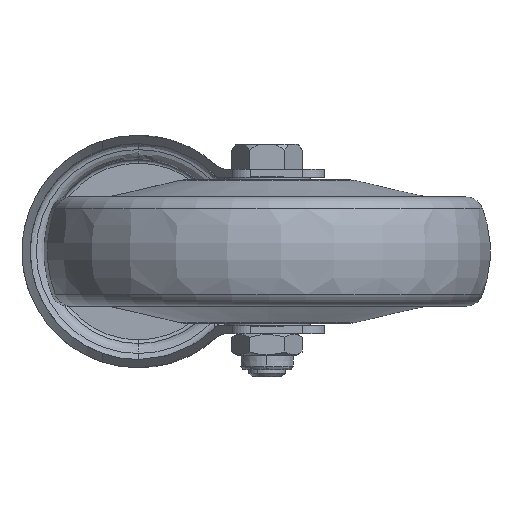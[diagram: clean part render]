
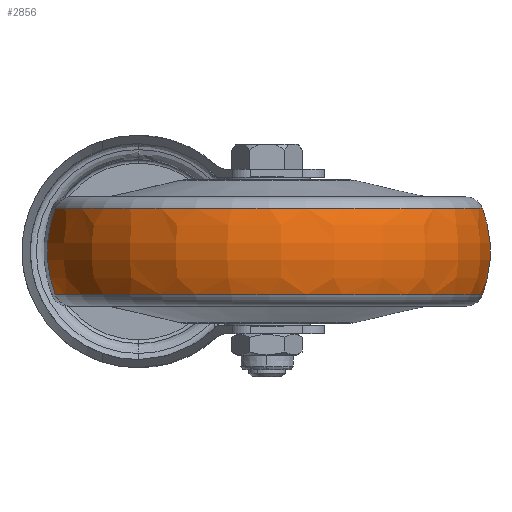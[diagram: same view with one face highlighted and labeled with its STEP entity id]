
A CAD part, front view. The second image highlights one B-rep face of the part: STEP entity #2856.
In plain terms, the highlighted toroidal (fillet/blend) face has major radius 29.539 mm and minor radius 32.961 mm.
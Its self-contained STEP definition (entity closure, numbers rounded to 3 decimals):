
#140 = AXIS2_PLACEMENT_3D ( 'NONE', #2561, #7888, #8629 ) ;
#310 = ORIENTED_EDGE ( 'NONE', *, *, #1558, .F. ) ;
#795 = ORIENTED_EDGE ( 'NONE', *, *, #2322, .F. ) ;
#1380 = DIRECTION ( 'NONE',  ( 1., 0., 0. ) ) ;
#1558 = EDGE_CURVE ( 'NONE', #8482, #8355, #2126, .T. ) ;
#1701 = CARTESIAN_POINT ( 'NONE',  ( -0.535, 0., 0. ) ) ;
#1845 = AXIS2_PLACEMENT_3D ( 'NONE', #1701, #5079, #8367 ) ;
#1910 = CARTESIAN_POINT ( 'NONE',  ( -0.535, 0., -29.539 ) ) ;
#2001 = DIRECTION ( 'NONE',  ( 0., -1., 0. ) ) ;
#2126 = CIRCLE ( 'NONE', #7037, 60.205 ) ;
#2322 = EDGE_CURVE ( 'NONE', #8382, #8482, #5362, .T. ) ;
#2492 = DIRECTION ( 'NONE',  ( 0., 0., 1. ) ) ;
#2561 = CARTESIAN_POINT ( 'NONE',  ( -12.618, 0., 0. ) ) ;
#2728 = EDGE_LOOP ( 'NONE', ( #795, #3138, #2748, #310 ) ) ;
#2748 = ORIENTED_EDGE ( 'NONE', *, *, #6054, .T. ) ;
#2856 = ADVANCED_FACE ( 'NONE', ( #4282 ), #4089, .T. ) ;
#3138 = ORIENTED_EDGE ( 'NONE', *, *, #5006, .T. ) ;
#3785 = CIRCLE ( 'NONE', #140, 60.205 ) ;
#3860 = CARTESIAN_POINT ( 'NONE',  ( -0.535, 0., 29.539 ) ) ;
#4089 = TOROIDAL_SURFACE ( 'NONE', #1845, 29.539, 32.961 ) ;
#4282 = FACE_OUTER_BOUND ( 'NONE', #2728, .T. ) ;
#4682 = DIRECTION ( 'NONE',  ( 0., 0., -1. ) ) ;
#4827 = VERTEX_POINT ( 'NONE', #6902 ) ;
#4907 = AXIS2_PLACEMENT_3D ( 'NONE', #1910, #2001, #4682 ) ;
#4920 = CARTESIAN_POINT ( 'NONE',  ( -12.618, 0., 60.205 ) ) ;
#5006 = EDGE_CURVE ( 'NONE', #8382, #4827, #3785, .T. ) ;
#5008 = CARTESIAN_POINT ( 'NONE',  ( 11.548, 0., 60.205 ) ) ;
#5079 = DIRECTION ( 'NONE',  ( 1., 0., 0. ) ) ;
#5182 = CIRCLE ( 'NONE', #4907, 32.961 ) ;
#5362 = CIRCLE ( 'NONE', #5779, 32.961 ) ;
#5779 = AXIS2_PLACEMENT_3D ( 'NONE', #3860, #7781, #2492 ) ;
#6054 = EDGE_CURVE ( 'NONE', #4827, #8355, #5182, .T. ) ;
#6902 = CARTESIAN_POINT ( 'NONE',  ( -12.618, 0., -60.205 ) ) ;
#7037 = AXIS2_PLACEMENT_3D ( 'NONE', #8635, #1380, #8621 ) ;
#7446 = CARTESIAN_POINT ( 'NONE',  ( 11.548, 0., -60.205 ) ) ;
#7781 = DIRECTION ( 'NONE',  ( 0., 1., 0. ) ) ;
#7888 = DIRECTION ( 'NONE',  ( 1., 0., 0. ) ) ;
#8355 = VERTEX_POINT ( 'NONE', #7446 ) ;
#8367 = DIRECTION ( 'NONE',  ( 0., 0., -1. ) ) ;
#8382 = VERTEX_POINT ( 'NONE', #4920 ) ;
#8482 = VERTEX_POINT ( 'NONE', #5008 ) ;
#8621 = DIRECTION ( 'NONE',  ( 0., 0., -1. ) ) ;
#8629 = DIRECTION ( 'NONE',  ( 0., 0., -1. ) ) ;
#8635 = CARTESIAN_POINT ( 'NONE',  ( 11.548, 0., 0. ) ) ;
